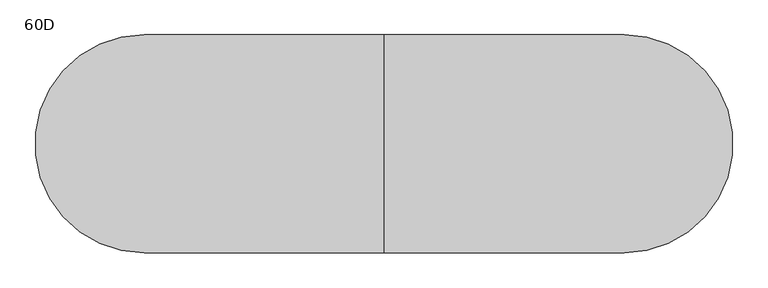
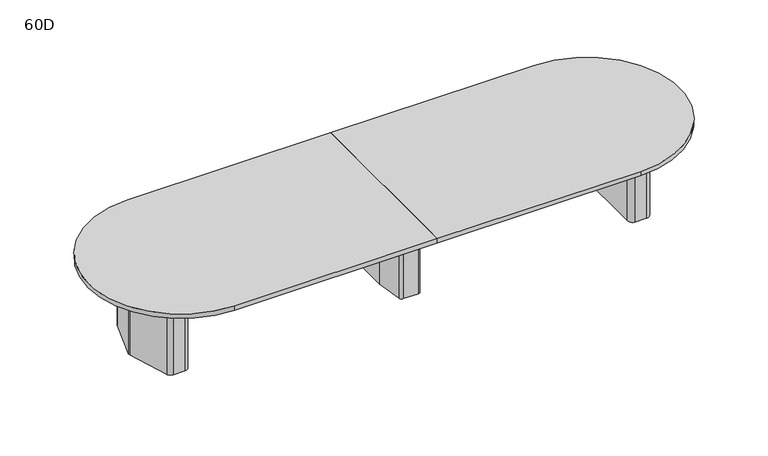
"""IFC4 building model written with IfcOpenShell, lengths in millimetres: furniture geometry, Coalesse_AM_Table_Conference_ETable2_Racetrack_16ft_ThreeBase : 60D."""

from ifc_helpers import new_model, si_unit, point, frame, frame_2d, origin, origin_with_axes, place, context, project, spatial, polyline, circle_curve, trimmed, segment, composite_curve, outline, extrude, source, transform, mapped, element, save
from ifc_brep_helpers import plane_surface, cylinder_surface, revolved_surface, advanced_brep


def furniture_60d_f8289ab6(model_context):
    return source(origin(), model_context, "Body", "SolidModel", [
        advanced_brep(
        [(61.0357815, 381.0, 698.5), (-61.0357815, 381.0, 698.5), (-86.1885994, 359.1349332, 698.5), (-117.2278179, 138.2753661, 698.5), (-117.475, 134.740433, 698.5), (-117.475, -134.7404196, 698.5), (-117.2278463, -138.2751502, 698.5), (-86.1904395, -359.1347306, 698.5), (-61.0375932, -381.0, 698.5), (61.0375932, -381.0, 698.5), (86.1904395, -359.1347306, 698.5), (117.2278463, -138.2751502, 698.5), (117.475, -134.7404196, 698.5), (117.475, 134.740433, 698.5), (117.2278179, 138.2753661, 698.5), (86.1885994, 359.1349332, 698.5), (25.4, 314.325, 698.5), (50.8, 288.925, 698.5), (50.8, -288.925, 698.5), (25.4, -314.325, 698.5), (-25.4, -314.325, 698.5), (-50.8, -288.925, 698.5), (-50.8, 288.925, 698.5), (-25.4, 314.325, 698.5), (61.0357815, 381.0, 3.175), (86.1885994, 359.1349332, 3.175), (117.2278179, 138.2753661, 3.175), (117.475, 134.740433, 3.175), (117.475, -134.7404196, 3.175), (117.2278463, -138.2751502, 3.175), (86.1904395, -359.1347306, 3.175), (61.0375932, -381.0, 3.175), (-61.0375932, -381.0, 3.175), (-86.1904395, -359.1347306, 3.175), (-117.2278463, -138.2751502, 3.175), (-117.475, -134.7404196, 3.175), (-117.475, 134.740433, 3.175), (-117.2278179, 138.2753661, 3.175), (-86.1885994, 359.1349332, 3.175), (-61.0357815, 381.0, 3.175), (25.4, 327.025, 3.175), (-25.4, 327.025, 3.175), (-63.5, 288.925, 3.175), (-63.5, -288.925, 3.175), (-25.4, -327.025, 3.175), (25.4, -327.025, 3.175), (63.5, -288.925, 3.175), (63.5, 288.925, 3.175), (25.4, 314.325, 3.175), (50.8, 288.925, 3.175), (50.8, -288.925, 3.175), (25.4, -314.325, 3.175), (-25.4, -314.325, 3.175), (-50.8, -288.925, 3.175), (-50.8, 288.925, 3.175), (-25.4, 314.325, 3.175), (25.4, 327.025, 0.0), (63.5, 288.925, 0.0), (63.5, -288.925, 0.0), (25.4, -327.025, 0.0), (-25.4, -327.025, 0.0), (-63.5, -288.925, 0.0), (-63.5, 288.925, 0.0), (-25.4, 327.025, 0.0)],
        [
            (0, 1),
            (1, 2, circle_curve(frame((-61.0357815, 355.6, 698.5), z_axis=(0.0, 0.0, 1.0), x_axis=(1.0, 0.0, 0.0)), 25.4)),
            (2, 3),
            (3, 4, circle_curve(frame((-92.075, 134.740433, 698.5), z_axis=(0.0, 0.0, 1.0), x_axis=(1.0, 0.0, 0.0)), 25.4)),
            (4, 5),
            (5, 6, circle_curve(frame((-92.075, -134.7404196, 698.5), z_axis=(0.0, 0.0, 1.0), x_axis=(1.0, 0.0, 0.0)), 25.4)),
            (6, 7),
            (7, 8, circle_curve(frame((-61.0375932, -355.6, 698.5), z_axis=(0.0, 0.0, 1.0), x_axis=(1.0, 0.0, 0.0)), 25.4)),
            (8, 9),
            (9, 10, circle_curve(frame((61.0375932, -355.6, 698.5), z_axis=(0.0, 0.0, 1.0), x_axis=(1.0, 0.0, 0.0)), 25.4)),
            (10, 11),
            (11, 12, circle_curve(frame((92.075, -134.7404196, 698.5), z_axis=(0.0, 0.0, 1.0), x_axis=(1.0, 0.0, 0.0)), 25.4)),
            (12, 13),
            (13, 14, circle_curve(frame((92.075, 134.740433, 698.5), z_axis=(0.0, 0.0, 1.0), x_axis=(1.0, 0.0, 0.0)), 25.4)),
            (14, 15),
            (15, 0, circle_curve(frame((61.0357815, 355.6, 698.5), z_axis=(0.0, 0.0, 1.0), x_axis=(1.0, 0.0, 0.0)), 25.4)),
            (16, 17, circle_curve(frame((25.4, 288.925, 698.5), z_axis=(0.0, 0.0, -1.0), x_axis=(1.0, 0.0, 0.0)), 25.4)),
            (17, 18),
            (18, 19, circle_curve(frame((25.4, -288.925, 698.5), z_axis=(0.0, 0.0, -1.0), x_axis=(1.0, 0.0, 0.0)), 25.4)),
            (19, 20),
            (20, 21, circle_curve(frame((-25.4, -288.925, 698.5), z_axis=(0.0, 0.0, -1.0), x_axis=(1.0, 0.0, 0.0)), 25.4)),
            (21, 22),
            (22, 23, circle_curve(frame((-25.4, 288.925, 698.5), z_axis=(0.0, 0.0, -1.0), x_axis=(1.0, 0.0, 0.0)), 25.4)),
            (23, 16),
            (24, 25, circle_curve(frame((61.0357815, 355.6, 3.175), z_axis=(0.0, 0.0, -1.0), x_axis=(1.0, 0.0, 0.0)), 25.4)),
            (25, 26),
            (26, 27, circle_curve(frame((92.075, 134.740433, 3.175), z_axis=(0.0, 0.0, -1.0), x_axis=(1.0, 0.0, 0.0)), 25.4)),
            (27, 28),
            (28, 29, circle_curve(frame((92.075, -134.7404196, 3.175), z_axis=(0.0, 0.0, -1.0), x_axis=(1.0, 0.0, 0.0)), 25.4)),
            (29, 30),
            (30, 31, circle_curve(frame((61.0375932, -355.6, 3.175), z_axis=(0.0, 0.0, -1.0), x_axis=(1.0, 0.0, 0.0)), 25.4)),
            (31, 32),
            (32, 33, circle_curve(frame((-61.0375932, -355.6, 3.175), z_axis=(0.0, 0.0, -1.0), x_axis=(1.0, 0.0, 0.0)), 25.4)),
            (33, 34),
            (34, 35, circle_curve(frame((-92.075, -134.7404196, 3.175), z_axis=(0.0, 0.0, -1.0), x_axis=(1.0, 0.0, 0.0)), 25.4)),
            (35, 36),
            (36, 37, circle_curve(frame((-92.075, 134.740433, 3.175), z_axis=(0.0, 0.0, -1.0), x_axis=(1.0, 0.0, 0.0)), 25.4)),
            (37, 38),
            (38, 39, circle_curve(frame((-61.0357815, 355.6, 3.175), z_axis=(0.0, 0.0, -1.0), x_axis=(1.0, 0.0, 0.0)), 25.4)),
            (39, 24),
            (40, 41),
            (41, 42, circle_curve(frame((-25.4, 288.925, 3.175), z_axis=(0.0, 0.0, 1.0), x_axis=(1.0, 0.0, 0.0)), 38.1)),
            (42, 43),
            (43, 44, circle_curve(frame((-25.4, -288.925, 3.175), z_axis=(0.0, 0.0, 1.0), x_axis=(1.0, 0.0, 0.0)), 38.1)),
            (44, 45),
            (45, 46, circle_curve(frame((25.4, -288.925, 3.175), z_axis=(0.0, 0.0, 1.0), x_axis=(1.0, 0.0, 0.0)), 38.1)),
            (46, 47),
            (47, 40, circle_curve(frame((25.4, 288.925, 3.175), z_axis=(0.0, 0.0, 1.0), x_axis=(1.0, 0.0, 0.0)), 38.1)),
            (0, 24),
            (39, 1),
            (38, 2),
            (37, 3),
            (36, 4),
            (35, 5),
            (34, 6),
            (33, 7),
            (32, 8),
            (31, 9),
            (30, 10),
            (29, 11),
            (28, 12),
            (27, 13),
            (26, 14),
            (25, 15),
            (16, 48),
            (48, 49, circle_curve(frame((25.4, 288.925, 3.175), z_axis=(0.0, 0.0, -1.0), x_axis=(1.0, 0.0, 0.0)), 25.4)),
            (49, 17),
            (49, 50),
            (50, 18),
            (50, 51, circle_curve(frame((25.4, -288.925, 3.175), z_axis=(0.0, 0.0, -1.0), x_axis=(1.0, 0.0, 0.0)), 25.4)),
            (51, 19),
            (51, 52),
            (52, 20),
            (52, 53, circle_curve(frame((-25.4, -288.925, 3.175), z_axis=(0.0, 0.0, -1.0), x_axis=(1.0, 0.0, 0.0)), 25.4)),
            (53, 21),
            (53, 54),
            (54, 22),
            (54, 55, circle_curve(frame((-25.4, 288.925, 3.175), z_axis=(0.0, 0.0, -1.0), x_axis=(1.0, 0.0, 0.0)), 25.4)),
            (55, 23),
            (55, 48),
            (56, 57, circle_curve(frame((25.4, 288.925, 0.0), z_axis=(0.0, 0.0, -1.0), x_axis=(1.0, 0.0, 0.0)), 38.1)),
            (57, 58),
            (58, 59, circle_curve(frame((25.4, -288.925, 0.0), z_axis=(0.0, 0.0, -1.0), x_axis=(1.0, 0.0, 0.0)), 38.1)),
            (59, 60),
            (60, 61, circle_curve(frame((-25.4, -288.925, 0.0), z_axis=(0.0, 0.0, -1.0), x_axis=(1.0, 0.0, 0.0)), 38.1)),
            (61, 62),
            (62, 63, circle_curve(frame((-25.4, 288.925, 0.0), z_axis=(0.0, 0.0, -1.0), x_axis=(1.0, 0.0, 0.0)), 38.1)),
            (63, 56),
            (63, 41),
            (40, 56),
            (62, 42),
            (61, 43),
            (60, 44),
            (59, 45),
            (58, 46),
            (57, 47),
        ],
        [
            plane_surface(frame((-1524.0, 381.0, 698.5), z_axis=(0.0, 0.0, 1.0), x_axis=(-1.0, 0.0, 0.0))),
            plane_surface(frame((-1524.0, 381.0, 3.175), z_axis=(0.0, 0.0, -1.0), x_axis=(1.0, 0.0, 0.0))),
            plane_surface(frame((61.0357815, 381.0, 698.5), z_axis=(0.0, 1.0, 0.0), x_axis=(0.0, 0.0, -1.0))),
            cylinder_surface(frame((-61.0357815, 355.6, 3.175), z_axis=(0.0, 0.0, 1.0), x_axis=(1.0, 0.0, 0.0)), 25.4),
            plane_surface(frame((-86.1885994, 359.1349332, 698.5), z_axis=(-0.9902684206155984, 0.13917059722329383, 0.0), x_axis=(0.0, 0.0, -1.0))),
            cylinder_surface(frame((-92.075, 134.740433, 3.175), z_axis=(0.0, 0.0, 1.0), x_axis=(1.0, 0.0, 0.0)), 25.4),
            plane_surface(frame((-117.475, 134.740433, 698.5), z_axis=(-1.0, 0.0, 0.0), x_axis=(0.0, 0.0, -1.0))),
            cylinder_surface(frame((-92.075, -134.7404196, 3.175), z_axis=(0.0, 0.0, 1.0), x_axis=(1.0, 0.0, 0.0)), 25.4),
            plane_surface(frame((-117.2278463, -138.2751502, 698.5), z_axis=(-0.9902695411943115, -0.1391626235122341, 0.0), x_axis=(0.0, 0.0, -1.0))),
            cylinder_surface(frame((-61.0375932, -355.6, 3.175), z_axis=(0.0, 0.0, 1.0), x_axis=(1.0, 0.0, 0.0)), 25.4),
            plane_surface(frame((-61.0375932, -381.0, 698.5), z_axis=(0.0, -1.0, 0.0), x_axis=(0.0, 0.0, -1.0))),
            cylinder_surface(frame((61.0375932, -355.6, 3.175), z_axis=(0.0, 0.0, 1.0), x_axis=(1.0, 0.0, 0.0)), 25.4),
            plane_surface(frame((86.1904395, -359.1347306, 698.5), z_axis=(0.9902695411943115, -0.1391626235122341, 0.0), x_axis=(0.0, 0.0, -1.0))),
            cylinder_surface(frame((92.075, -134.7404196, 3.175), z_axis=(0.0, 0.0, 1.0), x_axis=(1.0, 0.0, 0.0)), 25.4),
            plane_surface(frame((117.475, -134.7404196, 698.5), z_axis=(1.0, 0.0, 0.0), x_axis=(0.0, 0.0, -1.0))),
            cylinder_surface(frame((92.075, 134.740433, 3.175), z_axis=(0.0, 0.0, 1.0), x_axis=(1.0, 0.0, 0.0)), 25.4),
            plane_surface(frame((117.2278179, 138.2753661, 698.5), z_axis=(0.9902684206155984, 0.13917059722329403, 0.0), x_axis=(0.0, 0.0, -1.0))),
            cylinder_surface(frame((61.0357815, 355.6, 3.175), z_axis=(0.0, 0.0, 1.0), x_axis=(1.0, 0.0, 0.0)), 25.4),
            revolved_surface(polyline([(50.8, 288.925, 3.175), (50.8, 288.925, 698.5)]), (25.4, 288.925, 0.0), (0.0, 0.0, -1.0)),
            plane_surface(frame((50.8, 288.925, 698.5), z_axis=(-1.0, 0.0, 0.0), x_axis=(0.0, 0.0, -1.0))),
            revolved_surface(polyline([(50.8, -288.925, 3.175), (50.8, -288.925, 698.5)]), (25.4, -288.925, 0.0), (0.0, 0.0, -1.0)),
            plane_surface(frame((25.4, -314.325, 698.5), z_axis=(0.0, 1.0, 0.0), x_axis=(0.0, 0.0, -1.0))),
            revolved_surface(polyline([(0.0, -288.925, 3.175), (0.0, -288.925, 698.5)]), (-25.4, -288.925, 0.0), (0.0, 0.0, -1.0)),
            plane_surface(frame((-50.8, -288.925, 698.5), z_axis=(1.0, 0.0, 0.0), x_axis=(0.0, 0.0, -1.0))),
            revolved_surface(polyline([(0.0, 288.925, 3.175), (0.0, 288.925, 698.5)]), (-25.4, 288.925, 0.0), (0.0, 0.0, -1.0)),
            plane_surface(frame((-25.4, 314.325, 698.5), z_axis=(0.0, -1.0, 0.0), x_axis=(0.0, 0.0, -1.0))),
            plane_surface(frame((-50.8, 327.025, 3.175), z_axis=(0.0, 0.0, 1.0), x_axis=(-1.0, 0.0, 0.0))),
            plane_surface(frame((-50.8, 327.025, 0.0), z_axis=(0.0, 0.0, -1.0), x_axis=(1.0, 0.0, 0.0))),
            plane_surface(frame((25.4, 327.025, 3.175), z_axis=(0.0, 1.0, 0.0), x_axis=(0.0, 0.0, -1.0))),
            cylinder_surface(frame((-25.4, 288.925, 0.0), z_axis=(0.0, 0.0, 1.0), x_axis=(1.0, 0.0, 0.0)), 38.1),
            plane_surface(frame((-63.5, 288.925, 3.175), z_axis=(-1.0, 0.0, 0.0), x_axis=(0.0, 0.0, -1.0))),
            cylinder_surface(frame((-25.4, -288.925, 0.0), z_axis=(0.0, 0.0, 1.0), x_axis=(1.0, 0.0, 0.0)), 38.1),
            plane_surface(frame((-25.4, -327.025, 3.175), z_axis=(0.0, -1.0, 0.0), x_axis=(0.0, 0.0, -1.0))),
            cylinder_surface(frame((25.4, -288.925, 0.0), z_axis=(0.0, 0.0, 1.0), x_axis=(1.0, 0.0, 0.0)), 38.1),
            plane_surface(frame((63.5, -288.925, 3.175), z_axis=(1.0, 0.0, 0.0), x_axis=(0.0, 0.0, -1.0))),
            cylinder_surface(frame((25.4, 288.925, 0.0), z_axis=(0.0, 0.0, 1.0), x_axis=(1.0, 0.0, 0.0)), 38.1),
        ],
        [
            (0, [[1, 2, 3, 4, 5, 6, 7, 8, 9, 10, 11, 12, 13, 14, 15, 16], [17, 18, 19, 20, 21, 22, 23, 24]]),
            (1, [[25, 26, 27, 28, 29, 30, 31, 32, 33, 34, 35, 36, 37, 38, 39, 40], [41, 42, 43, 44, 45, 46, 47, 48]]),
            (2, [[-1, 49, -40, 50]]),
            (3, [[-2, -50, -39, 51]]),
            (4, [[-3, -51, -38, 52]]),
            (5, [[-4, -52, -37, 53]]),
            (6, [[-5, -53, -36, 54]]),
            (7, [[-6, -54, -35, 55]]),
            (8, [[-7, -55, -34, 56]]),
            (9, [[-8, -56, -33, 57]]),
            (10, [[-9, -57, -32, 58]]),
            (11, [[-10, -58, -31, 59]]),
            (12, [[-11, -59, -30, 60]]),
            (13, [[-12, -60, -29, 61]]),
            (14, [[-13, -61, -28, 62]]),
            (15, [[-14, -62, -27, 63]]),
            (16, [[-15, -63, -26, 64]]),
            (17, [[-16, -64, -25, -49]]),
            (18, [[-17, 65, 66, 67]]),
            (19, [[-18, -67, 68, 69]]),
            (20, [[-19, -69, 70, 71]]),
            (21, [[-20, -71, 72, 73]]),
            (22, [[-21, -73, 74, 75]]),
            (23, [[-22, -75, 76, 77]]),
            (24, [[-23, -77, 78, 79]]),
            (25, [[-24, -79, 80, -65]]),
            (26, [[-66, -80, -78, -76, -74, -72, -70, -68]]),
            (27, [[81, 82, 83, 84, 85, 86, 87, 88]]),
            (28, [[-88, 89, -41, 90]]),
            (29, [[-87, 91, -42, -89]]),
            (30, [[-86, 92, -43, -91]]),
            (31, [[-85, 93, -44, -92]]),
            (32, [[-84, 94, -45, -93]]),
            (33, [[-83, 95, -46, -94]]),
            (34, [[-82, 96, -47, -95]]),
            (35, [[-81, -90, -48, -96]]),
        ],
    ),
        extrude(outline(composite_curve([segment(polyline([(2036.7625, 101.7236478), (2036.7625, -97.2761514)]), True, "CONTINUOUS"), segment(trimmed(circle_curve(frame_2d((1998.6625, -97.2761514)), 38.1), [point((2036.7625, -97.2761514))], [point((2034.9991129, -108.7330515))], False, "CARTESIAN"), True, "CONTINUOUS"), segment(polyline([(2034.9991129, -108.7330515), (1976.5745591, -294.0319001)]), True, "CONTINUOUS"), segment(trimmed(circle_curve(frame_2d((1940.2379462, -282.575)), 38.1), [point((1976.5745591, -294.0319001))], [point((1940.2379462, -320.675))], False, "CARTESIAN"), True, "CONTINUOUS"), segment(polyline([(1940.2379462, -320.675), (1873.25, -320.675)]), True, "CONTINUOUS"), segment(trimmed(circle_curve(frame_2d((1873.25, -282.575)), 38.1), [point((1873.25, -320.675))], [point((1835.15, -282.575))], False, "CARTESIAN"), True, "CONTINUOUS"), segment(polyline([(1835.15, -282.575), (1835.15, 282.575)]), True, "CONTINUOUS"), segment(trimmed(circle_curve(frame_2d((1873.25, 282.575)), 38.1), [point((1835.15, 282.575))], [point((1873.25, 320.675))], False, "CARTESIAN"), True, "CONTINUOUS"), segment(polyline([(1873.25, 320.675), (1943.9873998, 320.675)]), True, "CONTINUOUS"), segment(trimmed(circle_curve(frame_2d((1943.9873998, 282.575)), 38.1), [point((1943.9873998, 320.675))], [point((1980.4572049, 293.6005756))], False, "CARTESIAN"), True, "CONTINUOUS"), segment(polyline([(1980.4572049, 293.6005756), (2035.1323051, 112.7492234)]), True, "CONTINUOUS"), segment(trimmed(circle_curve(frame_2d((1998.6625, 101.7236478)), 38.1), [point((2035.1323051, 112.7492234))], [point((2036.7625, 101.7236478))], False, "CARTESIAN"), True, "CONTINUOUS")], self_intersect=False)), origin_with_axes(), (0.0, 0.0, 1.0), 3.175),
        extrude(outline(composite_curve([segment(polyline([(1857.375, 381.0), (1945.5221663, 381.0)]), True, "CONTINUOUS"), segment(trimmed(circle_curve(frame_2d((1945.5221663, 339.725)), 41.275), [point((1945.5221663, 381.0))], [point((1984.8868303, 352.1366418))], False, "CARTESIAN"), True, "CONTINUOUS"), segment(polyline([(1984.8868303, 352.1366418), (2092.0018053, 12.4116418)]), True, "CONTINUOUS"), segment(trimmed(circle_curve(frame_2d((2052.6371413, 0.0)), 41.275), [point((2092.0018053, 12.4116418))], [point((2092.0018053, -12.4116418))], False, "CARTESIAN"), True, "CONTINUOUS"), segment(polyline([(2092.0018053, -12.4116418), (1984.8868303, -352.1366418)]), True, "CONTINUOUS"), segment(trimmed(circle_curve(frame_2d((1945.5221663, -339.725)), 41.275), [point((1984.8868303, -352.1366418))], [point((1945.5221663, -381.0))], False, "CARTESIAN"), True, "CONTINUOUS"), segment(polyline([(1945.5221663, -381.0), (1851.025, -381.0)]), True, "CONTINUOUS"), segment(trimmed(circle_curve(frame_2d((1851.025, -339.725)), 41.275), [point((1851.025, -381.0))], [point((1809.75, -339.725))], False, "CARTESIAN"), True, "CONTINUOUS"), segment(polyline([(1809.75, -339.725), (1809.75, 333.375)]), True, "CONTINUOUS"), segment(trimmed(circle_curve(frame_2d((1857.375, 333.375)), 47.625), [point((1809.75, 333.375))], [point((1857.375, 381.0))], False, "CARTESIAN"), True, "CONTINUOUS")], self_intersect=False), holes=[composite_curve([segment(trimmed(circle_curve(frame_2d((1873.25, -282.575)), 25.4), [point((1847.85, -282.575))], [point((1873.25, -307.975))], True, "CARTESIAN"), True, "CONTINUOUS"), segment(polyline([(1873.25, -307.975), (1940.2379462, -307.975)]), True, "CONTINUOUS"), segment(trimmed(circle_curve(frame_2d((1940.2379462, -282.575)), 25.4), [point((1940.2379462, -307.975))], [point((1964.4623548, -290.2129334))], True, "CARTESIAN"), True, "CONTINUOUS"), segment(polyline([(1964.4623548, -290.2129334), (2022.8869086, -104.9140848)]), True, "CONTINUOUS"), segment(trimmed(circle_curve(frame_2d((1998.6625, -97.2761514)), 25.4), [point((2022.8869086, -104.9140848))], [point((2024.0625, -97.2761514))], True, "CARTESIAN"), True, "CONTINUOUS"), segment(polyline([(2024.0625, -97.2761514), (2024.0625, 101.7236478)]), True, "CONTINUOUS"), segment(trimmed(circle_curve(frame_2d((1998.6625, 101.7236478)), 25.4), [point((2024.0625, 101.7236478))], [point((2022.9757034, 109.0740316))], True, "CARTESIAN"), True, "CONTINUOUS"), segment(polyline([(2022.9757034, 109.0740316), (1968.3006032, 289.9253837)]), True, "CONTINUOUS"), segment(trimmed(circle_curve(frame_2d((1943.9873998, 282.575)), 25.4), [point((1968.3006032, 289.9253837))], [point((1943.9873998, 307.975))], True, "CARTESIAN"), True, "CONTINUOUS"), segment(polyline([(1943.9873998, 307.975), (1873.25, 307.975)]), True, "CONTINUOUS"), segment(trimmed(circle_curve(frame_2d((1873.25, 282.575)), 25.4), [point((1873.25, 307.975))], [point((1847.85, 282.575))], True, "CARTESIAN"), True, "CONTINUOUS"), segment(polyline([(1847.85, 282.575), (1847.85, -282.575)]), True, "CONTINUOUS")], self_intersect=False)]), frame((0.0, 0.0, 3.175), z_axis=(0.0, 0.0, 1.0), x_axis=(1.0, 0.0, 0.0)), (0.0, 0.0, 1.0), 695.325),
        extrude(outline(composite_curve([segment(trimmed(circle_curve(frame_2d((-2009.775, 101.7236478)), 38.1), [point((-2047.875, 101.7236478))], [point((-2046.2448051, 112.7492234))], False, "CARTESIAN"), True, "CONTINUOUS"), segment(polyline([(-2046.2448051, 112.7492234), (-1991.5697049, 293.6005756)]), True, "CONTINUOUS"), segment(trimmed(circle_curve(frame_2d((-1955.0998998, 282.575)), 38.1), [point((-1991.5697049, 293.6005756))], [point((-1955.0998998, 320.675))], False, "CARTESIAN"), True, "CONTINUOUS"), segment(polyline([(-1955.0998998, 320.675), (-1884.3625, 320.675)]), True, "CONTINUOUS"), segment(trimmed(circle_curve(frame_2d((-1884.3625, 282.575)), 38.1), [point((-1884.3625, 320.675))], [point((-1846.2625, 282.575))], False, "CARTESIAN"), True, "CONTINUOUS"), segment(polyline([(-1846.2625, 282.575), (-1846.2625, -282.575)]), True, "CONTINUOUS"), segment(trimmed(circle_curve(frame_2d((-1884.3625, -282.575)), 38.1), [point((-1846.2625, -282.575))], [point((-1884.3625, -320.675))], False, "CARTESIAN"), True, "CONTINUOUS"), segment(polyline([(-1884.3625, -320.675), (-1951.3504462, -320.675)]), True, "CONTINUOUS"), segment(trimmed(circle_curve(frame_2d((-1951.3504462, -282.575)), 38.1), [point((-1951.3504462, -320.675))], [point((-1987.6870591, -294.0319001))], False, "CARTESIAN"), True, "CONTINUOUS"), segment(polyline([(-1987.6870591, -294.0319001), (-2046.1116129, -108.7330515)]), True, "CONTINUOUS"), segment(trimmed(circle_curve(frame_2d((-2009.775, -97.2761514)), 38.1), [point((-2046.1116129, -108.7330515))], [point((-2047.875, -97.2761514))], False, "CARTESIAN"), True, "CONTINUOUS"), segment(polyline([(-2047.875, -97.2761514), (-2047.875, 101.7236478)]), True, "CONTINUOUS")], self_intersect=False)), origin_with_axes(), (0.0, 0.0, 1.0), 3.175),
        extrude(outline(composite_curve([segment(trimmed(circle_curve(frame_2d((-1868.4875, 333.375)), 47.625), [point((-1868.4875, 381.0))], [point((-1820.8625, 333.375))], False, "CARTESIAN"), True, "CONTINUOUS"), segment(polyline([(-1820.8625, 333.375), (-1820.8625, -339.725)]), True, "CONTINUOUS"), segment(trimmed(circle_curve(frame_2d((-1862.1375, -339.725)), 41.275), [point((-1820.8625, -339.725))], [point((-1862.1375, -381.0))], False, "CARTESIAN"), True, "CONTINUOUS"), segment(polyline([(-1862.1375, -381.0), (-1956.6346663, -381.0)]), True, "CONTINUOUS"), segment(trimmed(circle_curve(frame_2d((-1956.6346663, -339.725)), 41.275), [point((-1956.6346663, -381.0))], [point((-1995.9993303, -352.1366418))], False, "CARTESIAN"), True, "CONTINUOUS"), segment(polyline([(-1995.9993303, -352.1366418), (-2103.1143053, -12.4116418)]), True, "CONTINUOUS"), segment(trimmed(circle_curve(frame_2d((-2063.7496413, 0.0)), 41.275), [point((-2103.1143053, -12.4116418))], [point((-2103.1143053, 12.4116418))], False, "CARTESIAN"), True, "CONTINUOUS"), segment(polyline([(-2103.1143053, 12.4116418), (-1995.9993303, 352.1366418)]), True, "CONTINUOUS"), segment(trimmed(circle_curve(frame_2d((-1956.6346663, 339.725)), 41.275), [point((-1995.9993303, 352.1366418))], [point((-1956.6346663, 381.0))], False, "CARTESIAN"), True, "CONTINUOUS"), segment(polyline([(-1956.6346663, 381.0), (-1868.4875, 381.0)]), True, "CONTINUOUS")], self_intersect=False), holes=[composite_curve([segment(polyline([(-1858.9625, -282.575), (-1858.9625, 282.575)]), True, "CONTINUOUS"), segment(trimmed(circle_curve(frame_2d((-1884.3625, 282.575)), 25.4), [point((-1858.9625, 282.575))], [point((-1884.3625, 307.975))], True, "CARTESIAN"), True, "CONTINUOUS"), segment(polyline([(-1884.3625, 307.975), (-1955.0998998, 307.975)]), True, "CONTINUOUS"), segment(trimmed(circle_curve(frame_2d((-1955.0998998, 282.575)), 25.4), [point((-1955.0998998, 307.975))], [point((-1979.4131032, 289.9253837))], True, "CARTESIAN"), True, "CONTINUOUS"), segment(polyline([(-1979.4131032, 289.9253837), (-2034.0882034, 109.0740316)]), True, "CONTINUOUS"), segment(trimmed(circle_curve(frame_2d((-2009.775, 101.7236478)), 25.4), [point((-2034.0882034, 109.0740316))], [point((-2035.175, 101.7236478))], True, "CARTESIAN"), True, "CONTINUOUS"), segment(polyline([(-2035.175, 101.7236478), (-2035.175, -97.2761514)]), True, "CONTINUOUS"), segment(trimmed(circle_curve(frame_2d((-2009.775, -97.2761514)), 25.4), [point((-2035.175, -97.2761514))], [point((-2033.9994086, -104.9140848))], True, "CARTESIAN"), True, "CONTINUOUS"), segment(polyline([(-2033.9994086, -104.9140848), (-1975.5748548, -290.2129334)]), True, "CONTINUOUS"), segment(trimmed(circle_curve(frame_2d((-1951.3504462, -282.575)), 25.4), [point((-1975.5748548, -290.2129334))], [point((-1951.3504462, -307.975))], True, "CARTESIAN"), True, "CONTINUOUS"), segment(polyline([(-1951.3504462, -307.975), (-1884.3625, -307.975)]), True, "CONTINUOUS"), segment(trimmed(circle_curve(frame_2d((-1884.3625, -282.575)), 25.4), [point((-1884.3625, -307.975))], [point((-1858.9625, -282.575))], True, "CARTESIAN"), True, "CONTINUOUS")], self_intersect=False)]), frame((0.0, 0.0, 3.175), z_axis=(0.0, 0.0, 1.0), x_axis=(1.0, 0.0, 0.0)), (0.0, 0.0, 1.0), 695.325),
        extrude(outline(composite_curve([segment(trimmed(circle_curve(frame_2d((1676.4, 0.0)), 762.0), [point((1676.4, 762.0))], [point((1676.4, -762.0))], False, "CARTESIAN"), True, "CONTINUOUS"), segment(polyline([(1676.4, -762.0), (0.0, -762.0), (0.0, 762.0), (1676.4, 762.0)]), True, "CONTINUOUS")], self_intersect=False)), frame((0.0, 0.0, 698.5), z_axis=(0.0, 0.0, 1.0), x_axis=(1.0, 0.0, 0.0)), (0.0, 0.0, 1.0), 38.1),
        extrude(outline(composite_curve([segment(polyline([(0.0, 762.0), (0.0, -762.0), (-1676.4, -762.0)]), True, "CONTINUOUS"), segment(trimmed(circle_curve(frame_2d((-1676.4, 0.0)), 762.0), [point((-1676.4, -762.0))], [point((-1676.4, 762.0))], False, "CARTESIAN"), True, "CONTINUOUS"), segment(polyline([(-1676.4, 762.0), (0.0, 762.0)]), True, "CONTINUOUS")], self_intersect=False)), frame((0.0, 0.0, 698.5), z_axis=(0.0, 0.0, 1.0), x_axis=(1.0, 0.0, 0.0)), (0.0, 0.0, 1.0), 38.1),
        extrude(outline(polyline([(96.8375, 698.5), (103.1875, 698.5), (103.1875, 476.25), (-103.1875, 476.25), (-103.1875, 698.5), (-96.8375, 698.5), (-96.8375, 482.6), (96.8375, 482.6), (96.8375, 698.5)])), frame((-1820.8625, 0.0, 0.0), z_axis=(1.0, 0.0, 0.0), x_axis=(0.0, 1.0, 0.0)), (0.0, 0.0, 1.0), 3630.6125),
    ])


if __name__ == "__main__":
    model = new_model("IFC4")
    model_context = context("Model", 3, world=origin())
    ifc_project = project(units=[si_unit("LENGTHUNIT", "METRE", prefix="MILLI")], contexts=[model_context])
    site = spatial("IfcSite", under=ifc_project)
    building = spatial("IfcBuilding", under=site)
    placement = place(None, origin())
    furniture_60d_shape = furniture_60d_f8289ab6(model_context)
    element("IfcFurniture", 1, ObjectType="Coalesse_AM_Table_Conference_ETable2_Racetrack_16ft_ThreeBase : 60D", at=placement, inside=building, context=model_context, shape_type="MappedRepresentation", body=[
        mapped(furniture_60d_shape, transform((0.0, 0.0, 0.0), x_axis=(1.0, 0.0, 0.0), y_axis=(0.0, 1.0, 0.0), z_axis=(0.0, 0.0, 1.0))),
    ])
    save(model, "model.ifc")
